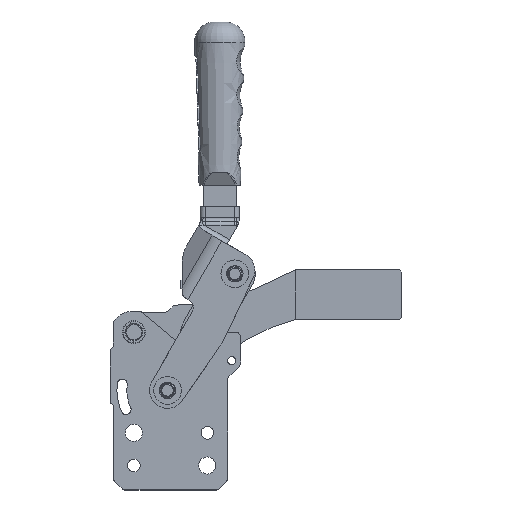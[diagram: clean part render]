
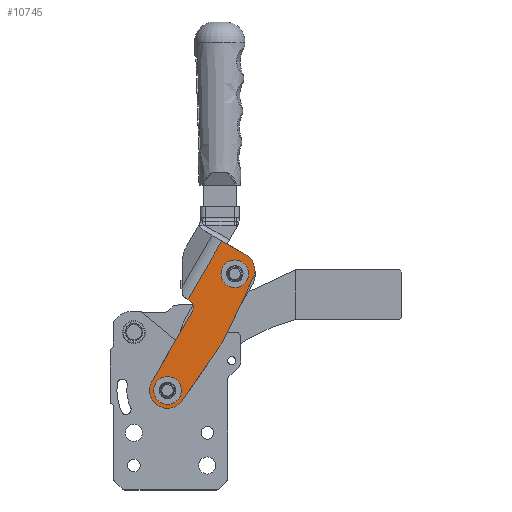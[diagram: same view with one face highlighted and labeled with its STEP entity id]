
A CAD part, top view. The second image highlights one B-rep face of the part: STEP entity #10745.
In plain terms, the highlighted planar face has unit normal (0, 0, 1) as drawn and (0, 0, -1) by its records, which use the part's own axes.
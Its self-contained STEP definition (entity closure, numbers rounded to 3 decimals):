
#675 = EDGE_CURVE ( 'NONE', #24618, #4451, #19353, .T. ) ;
#710 = ORIENTED_EDGE ( 'NONE', *, *, #11508, .F. ) ;
#815 = ORIENTED_EDGE ( 'NONE', *, *, #1489, .F. ) ;
#1110 = DIRECTION ( 'NONE',  ( 1., 0., 0. ) ) ;
#1255 = CARTESIAN_POINT ( 'NONE',  ( 0., 96., -21.5 ) ) ;
#1464 = DIRECTION ( 'NONE',  ( 1., 0., 0. ) ) ;
#1489 = EDGE_CURVE ( 'NONE', #7045, #25964, #4427, .T. ) ;
#1921 = DIRECTION ( 'NONE',  ( 1., 0., 0. ) ) ;
#2607 = CARTESIAN_POINT ( 'NONE',  ( 11., 0., -21.5 ) ) ;
#2793 = VERTEX_POINT ( 'NONE', #25809 ) ;
#3033 = ORIENTED_EDGE ( 'NONE', *, *, #20218, .T. ) ;
#3555 = EDGE_CURVE ( 'NONE', #4451, #24618, #18263, .T. ) ;
#3751 = DIRECTION ( 'NONE',  ( 0., 0., 1. ) ) ;
#4427 = CIRCLE ( 'NONE', #12134, 11. ) ;
#4451 = VERTEX_POINT ( 'NONE', #23367 ) ;
#4564 = ORIENTED_EDGE ( 'NONE', *, *, #675, .T. ) ;
#4653 = DIRECTION ( 'NONE',  ( -0.081, -0.997, 0. ) ) ;
#4721 = VERTEX_POINT ( 'NONE', #7589 ) ;
#4873 = LINE ( 'NONE', #22204, #22681 ) ;
#5232 = VECTOR ( 'NONE', #23394, 1000. ) ;
#5359 = FACE_BOUND ( 'NONE', #11479, .T. ) ;
#5699 = CARTESIAN_POINT ( 'NONE',  ( 0., 0., -21.5 ) ) ;
#5971 = VERTEX_POINT ( 'NONE', #6720 ) ;
#6116 = DIRECTION ( 'NONE',  ( 1., 0., 0. ) ) ;
#6118 = CARTESIAN_POINT ( 'NONE',  ( 16.991, 54.5, -21.5 ) ) ;
#6296 = CARTESIAN_POINT ( 'NONE',  ( 0., 85., -21.5 ) ) ;
#6511 = ORIENTED_EDGE ( 'NONE', *, *, #7103, .F. ) ;
#6720 = CARTESIAN_POINT ( 'NONE',  ( -8.5, 82.5, -21.5 ) ) ;
#6842 = VECTOR ( 'NONE', #18708, 1000. ) ;
#6903 = AXIS2_PLACEMENT_3D ( 'NONE', #9337, #18151, #1110 ) ;
#7045 = VERTEX_POINT ( 'NONE', #9927 ) ;
#7103 = EDGE_CURVE ( 'NONE', #25964, #4721, #19155, .T. ) ;
#7108 = AXIS2_PLACEMENT_3D ( 'NONE', #13460, #9471, #22398 ) ;
#7220 = EDGE_LOOP ( 'NONE', ( #17880, #710, #12715, #6511, #815, #9497, #9220, #11608, #17603, #23457 ) ) ;
#7507 = AXIS2_PLACEMENT_3D ( 'NONE', #8636, #8223, #21135 ) ;
#7589 = CARTESIAN_POINT ( 'NONE',  ( -14.235, 45.749, -21.5 ) ) ;
#8223 = DIRECTION ( 'NONE',  ( 0., 0., 1. ) ) ;
#8454 = DIRECTION ( 'NONE',  ( 0., 0., 1. ) ) ;
#8636 = CARTESIAN_POINT ( 'NONE',  ( 0., 82.5, -21.5 ) ) ;
#9083 = VECTOR ( 'NONE', #24599, 1000. ) ;
#9220 = ORIENTED_EDGE ( 'NONE', *, *, #25757, .T. ) ;
#9265 = EDGE_CURVE ( 'NONE', #7045, #14867, #14313, .T. ) ;
#9337 = CARTESIAN_POINT ( 'NONE',  ( 0., 0., -21.5 ) ) ;
#9471 = DIRECTION ( 'NONE',  ( 0., 0., 1. ) ) ;
#9483 = PLANE ( 'NONE',  #6903 ) ;
#9497 = ORIENTED_EDGE ( 'NONE', *, *, #9265, .T. ) ;
#9927 = CARTESIAN_POINT ( 'NONE',  ( 0., 96., -21.5 ) ) ;
#10375 = DIRECTION ( 'NONE',  ( 1., 0., 0. ) ) ;
#10481 = LINE ( 'NONE', #16875, #5232 ) ;
#10589 = CARTESIAN_POINT ( 'NONE',  ( -10.964, -0.893, -21.5 ) ) ;
#10745 = ADVANCED_FACE ( 'NONE', ( #20421, #27221, #5359 ), #9483, .F. ) ;
#10791 = CARTESIAN_POINT ( 'NONE',  ( 16., 49.5, -21.5 ) ) ;
#11010 = VECTOR ( 'NONE', #4653, 1000. ) ;
#11262 = DIRECTION ( 'NONE',  ( 0., 1., 0. ) ) ;
#11479 = EDGE_LOOP ( 'NONE', ( #4564, #17078 ) ) ;
#11508 = EDGE_CURVE ( 'NONE', #20505, #16042, #4873, .T. ) ;
#11608 = ORIENTED_EDGE ( 'NONE', *, *, #20314, .T. ) ;
#12134 = AXIS2_PLACEMENT_3D ( 'NONE', #6296, #3751, #1921 ) ;
#12257 = VERTEX_POINT ( 'NONE', #15241 ) ;
#12652 = AXIS2_PLACEMENT_3D ( 'NONE', #17392, #8454, #26047 ) ;
#12715 = ORIENTED_EDGE ( 'NONE', *, *, #20156, .F. ) ;
#12734 = CARTESIAN_POINT ( 'NONE',  ( -14.235, 39.251, -21.5 ) ) ;
#12928 = DIRECTION ( 'NONE',  ( 0., 0., 1. ) ) ;
#13125 = LINE ( 'NONE', #2607, #18476 ) ;
#13246 = EDGE_CURVE ( 'NONE', #12257, #5971, #18078, .T. ) ;
#13460 = CARTESIAN_POINT ( 'NONE',  ( 0., 0., -21.5 ) ) ;
#13946 = EDGE_CURVE ( 'NONE', #15288, #2793, #25730, .T. ) ;
#14077 = VERTEX_POINT ( 'NONE', #6118 ) ;
#14313 = LINE ( 'NONE', #1255, #6842 ) ;
#14375 = DIRECTION ( 'NONE',  ( 0., 0., 1. ) ) ;
#14499 = CIRCLE ( 'NONE', #21307, 11. ) ;
#14867 = VERTEX_POINT ( 'NONE', #15370 ) ;
#14927 = CARTESIAN_POINT ( 'NONE',  ( 0., 0., -21.5 ) ) ;
#15021 = ORIENTED_EDGE ( 'NONE', *, *, #13246, .T. ) ;
#15241 = CARTESIAN_POINT ( 'NONE',  ( 8.5, 82.5, -21.5 ) ) ;
#15288 = VERTEX_POINT ( 'NONE', #18030 ) ;
#15370 = CARTESIAN_POINT ( 'NONE',  ( 16.991, 96., -21.5 ) ) ;
#16042 = VERTEX_POINT ( 'NONE', #10589 ) ;
#16761 = EDGE_LOOP ( 'NONE', ( #3033, #15021 ) ) ;
#16875 = CARTESIAN_POINT ( 'NONE',  ( 21., 54.5, -21.5 ) ) ;
#17078 = ORIENTED_EDGE ( 'NONE', *, *, #3555, .T. ) ;
#17392 = CARTESIAN_POINT ( 'NONE',  ( 0., 82.5, -21.5 ) ) ;
#17603 = ORIENTED_EDGE ( 'NONE', *, *, #13946, .T. ) ;
#17880 = ORIENTED_EDGE ( 'NONE', *, *, #27209, .F. ) ;
#18030 = CARTESIAN_POINT ( 'NONE',  ( 16., 54.5, -21.5 ) ) ;
#18078 = CIRCLE ( 'NONE', #12652, 8.5 ) ;
#18151 = DIRECTION ( 'NONE',  ( 0., 0., 1. ) ) ;
#18263 = CIRCLE ( 'NONE', #19626, 8.5 ) ;
#18476 = VECTOR ( 'NONE', #11262, 1000. ) ;
#18588 = CARTESIAN_POINT ( 'NONE',  ( 25.633, 42.5, -21.5 ) ) ;
#18708 = DIRECTION ( 'NONE',  ( 1., 0., 0. ) ) ;
#19155 = LINE ( 'NONE', #27933, #11010 ) ;
#19353 = CIRCLE ( 'NONE', #7108, 8.5 ) ;
#19626 = AXIS2_PLACEMENT_3D ( 'NONE', #5699, #14375, #1464 ) ;
#19928 = CARTESIAN_POINT ( 'NONE',  ( 11., 0., -21.5 ) ) ;
#20156 = EDGE_CURVE ( 'NONE', #4721, #20505, #24778, .T. ) ;
#20218 = EDGE_CURVE ( 'NONE', #5971, #12257, #22472, .T. ) ;
#20314 = EDGE_CURVE ( 'NONE', #14077, #15288, #10481, .T. ) ;
#20421 = FACE_BOUND ( 'NONE', #16761, .T. ) ;
#20505 = VERTEX_POINT ( 'NONE', #12734 ) ;
#21135 = DIRECTION ( 'NONE',  ( 1., 0., 0. ) ) ;
#21174 = DIRECTION ( 'NONE',  ( 0., 0., 1. ) ) ;
#21221 = AXIS2_PLACEMENT_3D ( 'NONE', #10791, #21174, #10375 ) ;
#21307 = AXIS2_PLACEMENT_3D ( 'NONE', #14927, #12928, #6116 ) ;
#22204 = CARTESIAN_POINT ( 'NONE',  ( -14.235, 39.251, -21.5 ) ) ;
#22276 = VERTEX_POINT ( 'NONE', #19928 ) ;
#22361 = EDGE_CURVE ( 'NONE', #22276, #2793, #13125, .T. ) ;
#22398 = DIRECTION ( 'NONE',  ( 1., 0., 0. ) ) ;
#22472 = CIRCLE ( 'NONE', #7507, 8.5 ) ;
#22681 = VECTOR ( 'NONE', #24455, 1000. ) ;
#23035 = CARTESIAN_POINT ( 'NONE',  ( -10.964, 85.893, -21.5 ) ) ;
#23119 = DIRECTION ( 'NONE',  ( 0., 0., 1. ) ) ;
#23367 = CARTESIAN_POINT ( 'NONE',  ( 8.5, 0., -21.5 ) ) ;
#23370 = AXIS2_PLACEMENT_3D ( 'NONE', #18588, #23119, #27247 ) ;
#23394 = DIRECTION ( 'NONE',  ( -1., 0., 0. ) ) ;
#23457 = ORIENTED_EDGE ( 'NONE', *, *, #22361, .F. ) ;
#24455 = DIRECTION ( 'NONE',  ( 0.081, -0.997, 0. ) ) ;
#24599 = DIRECTION ( 'NONE',  ( 0., -1., 0. ) ) ;
#24618 = VERTEX_POINT ( 'NONE', #25483 ) ;
#24778 = CIRCLE ( 'NONE', #23370, 40. ) ;
#25483 = CARTESIAN_POINT ( 'NONE',  ( -8.5, 0., -21.5 ) ) ;
#25730 = CIRCLE ( 'NONE', #21221, 5. ) ;
#25757 = EDGE_CURVE ( 'NONE', #14867, #14077, #26462, .T. ) ;
#25809 = CARTESIAN_POINT ( 'NONE',  ( 11., 49.5, -21.5 ) ) ;
#25964 = VERTEX_POINT ( 'NONE', #23035 ) ;
#26047 = DIRECTION ( 'NONE',  ( 1., 0., 0. ) ) ;
#26174 = CARTESIAN_POINT ( 'NONE',  ( 16.991, 0., -21.5 ) ) ;
#26462 = LINE ( 'NONE', #26174, #9083 ) ;
#27209 = EDGE_CURVE ( 'NONE', #16042, #22276, #14499, .T. ) ;
#27221 = FACE_OUTER_BOUND ( 'NONE', #7220, .T. ) ;
#27247 = DIRECTION ( 'NONE',  ( 1., 0., 0. ) ) ;
#27933 = CARTESIAN_POINT ( 'NONE',  ( -10.964, 85.893, -21.5 ) ) ;
